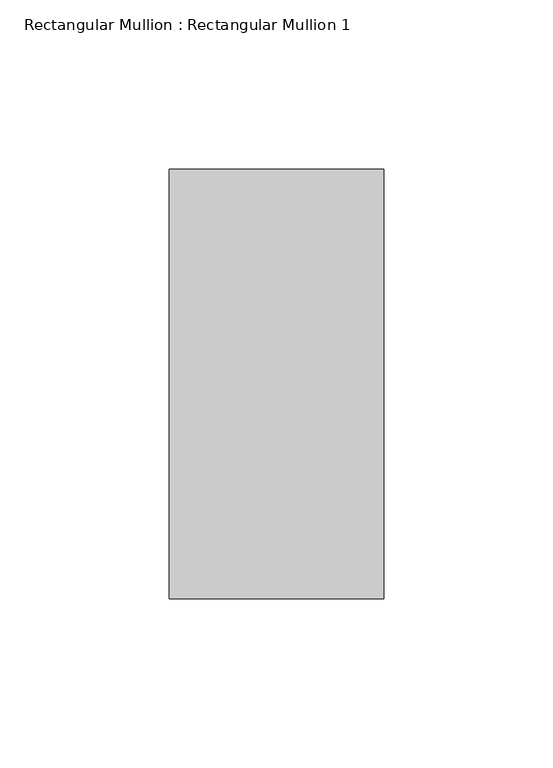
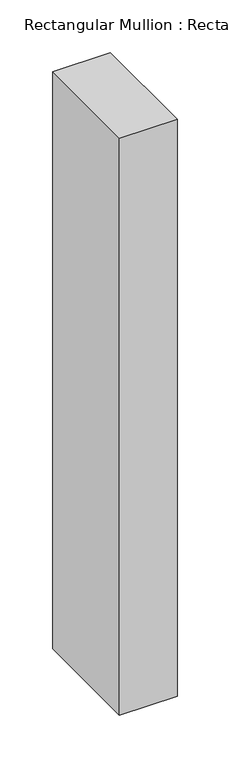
"""IFC4 building model written with IfcOpenShell, lengths in millimetres: member geometry, Rectangular Mullion : Rectangular Mullion 1."""

from ifc_helpers import new_model, si_unit, frame, origin, place, context, project, spatial, polyline, outline, extrude, source, transform, mapped, element, save


def rectangular_mullion_rectangular_mullion_1_799ad812(model_context):
    return source(origin(), model_context, "Body", "SweptSolid", [
        extrude(outline(polyline([(31.75, 63.5), (31.75, -63.5), (-31.75, -63.5), (-31.75, 63.5), (31.75, 63.5)])), frame((0.0, 0.0, -669.5836554), z_axis=(0.0, 0.0, 1.0), x_axis=(1.0, 0.0, 0.0)), (0.0, 0.0, 1.0), 669.5836554),
    ])


if __name__ == "__main__":
    model = new_model("IFC4")
    model_context = context("Model", 3, world=origin())
    ifc_project = project(units=[si_unit("LENGTHUNIT", "METRE", prefix="MILLI")], contexts=[model_context])
    site = spatial("IfcSite", under=ifc_project)
    building = spatial("IfcBuilding", under=site)
    placement = place(None, origin())
    rectangular_mullion_rectangular_mullion_1_shape = rectangular_mullion_rectangular_mullion_1_799ad812(model_context)
    element("IfcMember", 1, ObjectType="Rectangular Mullion : Rectangular Mullion 1", at=placement, inside=building, context=model_context, shape_type="MappedRepresentation", body=[
        mapped(rectangular_mullion_rectangular_mullion_1_shape, transform((0.0, 0.0, 0.0), x_axis=(1.0, 0.0, 0.0), y_axis=(0.0, 1.0, 0.0), z_axis=(0.0, 0.0, 1.0))),
    ])
    save(model, "model.ifc")
